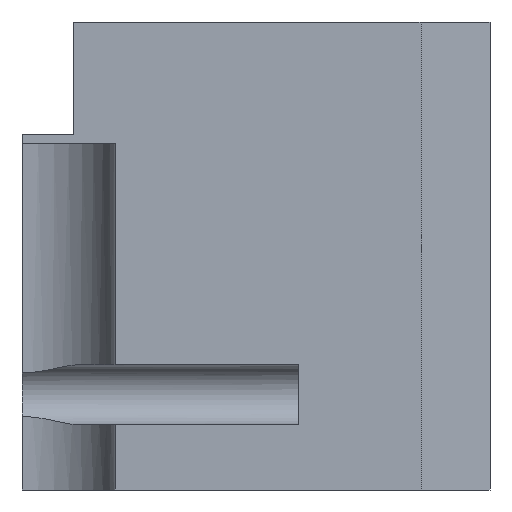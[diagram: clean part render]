
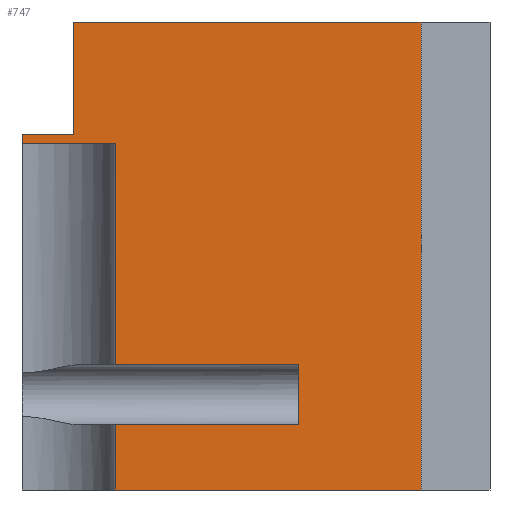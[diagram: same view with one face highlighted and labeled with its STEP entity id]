
A CAD part, front view. The second image highlights one B-rep face of the part: STEP entity #747.
In plain terms, the highlighted planar face has unit normal (0, -1, 0).
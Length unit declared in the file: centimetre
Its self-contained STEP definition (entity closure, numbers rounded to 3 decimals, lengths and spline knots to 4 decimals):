
#3 = DIRECTION ( 'NONE',  ( 0., 0., 1. ) ) ;
#23 = VERTEX_POINT ( 'NONE', #884 ) ;
#25 = ORIENTED_EDGE ( 'NONE', *, *, #405, .T. ) ;
#53 = ORIENTED_EDGE ( 'NONE', *, *, #575, .F. ) ;
#58 = VERTEX_POINT ( 'NONE', #657 ) ;
#68 = CARTESIAN_POINT ( 'NONE',  ( 590.8598, 0., 267.9866 ) ) ;
#75 = EDGE_CURVE ( 'NONE', #58, #188, #459, .T. ) ;
#87 = FACE_OUTER_BOUND ( 'NONE', #111, .T. ) ;
#102 = CARTESIAN_POINT ( 'NONE',  ( 109.5762, 0., 760.6535 ) ) ;
#105 = VERTEX_POINT ( 'NONE', #1072 ) ;
#110 = DIRECTION ( 'NONE',  ( 1., 0., 0. ) ) ;
#111 = EDGE_LOOP ( 'NONE', ( #192, #397, #243, #25, #955, #439, #894, #882, #53, #384, #959, #612 ) ) ;
#117 = LINE ( 'NONE', #610, #653 ) ;
#119 = DIRECTION ( 'NONE',  ( 0., 0., -1. ) ) ;
#125 = DIRECTION ( 'NONE',  ( 0., 0., -1. ) ) ;
#163 = CARTESIAN_POINT ( 'NONE',  ( 590.8598, 0., 267.9866 ) ) ;
#187 = CARTESIAN_POINT ( 'NONE',  ( 0., 0., 760.6535 ) ) ;
#188 = VERTEX_POINT ( 'NONE', #187 ) ;
#192 = ORIENTED_EDGE ( 'NONE', *, *, #382, .T. ) ;
#197 = LINE ( 'NONE', #877, #488 ) ;
#201 = EDGE_CURVE ( 'NONE', #698, #1052, #264, .T. ) ;
#206 = CARTESIAN_POINT ( 'NONE',  ( 199.2804, 0., 741.2539 ) ) ;
#243 = ORIENTED_EDGE ( 'NONE', *, *, #451, .T. ) ;
#250 = CARTESIAN_POINT ( 'NONE',  ( 852.5691, 0., 1000. ) ) ;
#259 = VECTOR ( 'NONE', #909, 100. ) ;
#264 = LINE ( 'NONE', #430, #471 ) ;
#272 = DIRECTION ( 'NONE',  ( 0., 0., -1. ) ) ;
#301 = LINE ( 'NONE', #620, #436 ) ;
#321 = CARTESIAN_POINT ( 'NONE',  ( 0., 0., 760.6535 ) ) ;
#338 = EDGE_CURVE ( 'NONE', #541, #516, #373, .T. ) ;
#357 = DIRECTION ( 'NONE',  ( -1., 0., 0. ) ) ;
#370 = CARTESIAN_POINT ( 'NONE',  ( 0., 0., 741.2539 ) ) ;
#373 = LINE ( 'NONE', #979, #847 ) ;
#382 = EDGE_CURVE ( 'NONE', #516, #698, #444, .T. ) ;
#384 = ORIENTED_EDGE ( 'NONE', *, *, #394, .T. ) ;
#392 = EDGE_CURVE ( 'NONE', #188, #862, #720, .T. ) ;
#394 = EDGE_CURVE ( 'NONE', #795, #105, #197, .T. ) ;
#397 = ORIENTED_EDGE ( 'NONE', *, *, #201, .T. ) ;
#403 = VECTOR ( 'NONE', #568, 100. ) ;
#405 = EDGE_CURVE ( 'NONE', #1094, #1037, #536, .T. ) ;
#428 = DIRECTION ( 'NONE',  ( 0., 1., 0. ) ) ;
#430 = CARTESIAN_POINT ( 'NONE',  ( 199.2804, 0., 741.2539 ) ) ;
#436 = VECTOR ( 'NONE', #953, 100. ) ;
#439 = ORIENTED_EDGE ( 'NONE', *, *, #1083, .T. ) ;
#444 = LINE ( 'NONE', #780, #1031 ) ;
#448 = VECTOR ( 'NONE', #1007, 100. ) ;
#451 = EDGE_CURVE ( 'NONE', #1052, #1094, #301, .T. ) ;
#456 = CARTESIAN_POINT ( 'NONE',  ( 852.5691, 0., 1000. ) ) ;
#459 = LINE ( 'NONE', #321, #448 ) ;
#471 = VECTOR ( 'NONE', #928, 100. ) ;
#488 = VECTOR ( 'NONE', #125, 100. ) ;
#503 = LINE ( 'NONE', #163, #403 ) ;
#516 = VERTEX_POINT ( 'NONE', #656 ) ;
#518 = CARTESIAN_POINT ( 'NONE',  ( 852.5691, 0., 0. ) ) ;
#536 = LINE ( 'NONE', #456, #767 ) ;
#537 = VECTOR ( 'NONE', #1070, 100. ) ;
#541 = VERTEX_POINT ( 'NONE', #68 ) ;
#564 = VECTOR ( 'NONE', #272, 100. ) ;
#568 = DIRECTION ( 'NONE',  ( -1., 0., 0. ) ) ;
#575 = EDGE_CURVE ( 'NONE', #795, #862, #811, .T. ) ;
#610 = CARTESIAN_POINT ( 'NONE',  ( 0., 0., 1000. ) ) ;
#612 = ORIENTED_EDGE ( 'NONE', *, *, #338, .T. ) ;
#620 = CARTESIAN_POINT ( 'NONE',  ( 0., 0., 0. ) ) ;
#653 = VECTOR ( 'NONE', #110, 100. ) ;
#656 = CARTESIAN_POINT ( 'NONE',  ( 590.8598, 0., 139.2363 ) ) ;
#657 = CARTESIAN_POINT ( 'NONE',  ( 109.5762, 0., 760.6535 ) ) ;
#667 = CARTESIAN_POINT ( 'NONE',  ( 199.2804, 0., 139.2363 ) ) ;
#698 = VERTEX_POINT ( 'NONE', #667 ) ;
#720 = LINE ( 'NONE', #889, #537 ) ;
#747 = ADVANCED_FACE ( 'NONE', ( #87 ), #756, .F. ) ;
#756 = PLANE ( 'NONE',  #839 ) ;
#767 = VECTOR ( 'NONE', #1046, 100. ) ;
#780 = CARTESIAN_POINT ( 'NONE',  ( 590.8598, 0., 139.2363 ) ) ;
#795 = VERTEX_POINT ( 'NONE', #206 ) ;
#802 = EDGE_CURVE ( 'NONE', #23, #1037, #117, .T. ) ;
#811 = LINE ( 'NONE', #915, #259 ) ;
#839 = AXIS2_PLACEMENT_3D ( 'NONE', #1028, #428, #3 ) ;
#847 = VECTOR ( 'NONE', #119, 100. ) ;
#862 = VERTEX_POINT ( 'NONE', #370 ) ;
#877 = CARTESIAN_POINT ( 'NONE',  ( 199.2804, 0., 741.2539 ) ) ;
#882 = ORIENTED_EDGE ( 'NONE', *, *, #392, .T. ) ;
#884 = CARTESIAN_POINT ( 'NONE',  ( 109.5762, 0., 1000. ) ) ;
#889 = CARTESIAN_POINT ( 'NONE',  ( 0., 0., 1000. ) ) ;
#894 = ORIENTED_EDGE ( 'NONE', *, *, #75, .T. ) ;
#909 = DIRECTION ( 'NONE',  ( -1., 0., 0. ) ) ;
#915 = CARTESIAN_POINT ( 'NONE',  ( 0., 0., 741.2539 ) ) ;
#928 = DIRECTION ( 'NONE',  ( 0., 0., -1. ) ) ;
#953 = DIRECTION ( 'NONE',  ( 1., 0., 0. ) ) ;
#955 = ORIENTED_EDGE ( 'NONE', *, *, #802, .F. ) ;
#959 = ORIENTED_EDGE ( 'NONE', *, *, #1049, .F. ) ;
#979 = CARTESIAN_POINT ( 'NONE',  ( 590.8598, 0., 1000. ) ) ;
#1007 = DIRECTION ( 'NONE',  ( -1., 0., 0. ) ) ;
#1028 = CARTESIAN_POINT ( 'NONE',  ( 0., 0., 1000. ) ) ;
#1031 = VECTOR ( 'NONE', #357, 100. ) ;
#1037 = VERTEX_POINT ( 'NONE', #250 ) ;
#1046 = DIRECTION ( 'NONE',  ( 0., 0., 1. ) ) ;
#1049 = EDGE_CURVE ( 'NONE', #541, #105, #503, .T. ) ;
#1052 = VERTEX_POINT ( 'NONE', #1102 ) ;
#1056 = LINE ( 'NONE', #102, #564 ) ;
#1070 = DIRECTION ( 'NONE',  ( 0., 0., -1. ) ) ;
#1072 = CARTESIAN_POINT ( 'NONE',  ( 199.2804, 0., 267.9866 ) ) ;
#1083 = EDGE_CURVE ( 'NONE', #23, #58, #1056, .T. ) ;
#1094 = VERTEX_POINT ( 'NONE', #518 ) ;
#1102 = CARTESIAN_POINT ( 'NONE',  ( 199.2804, 0., 0. ) ) ;
